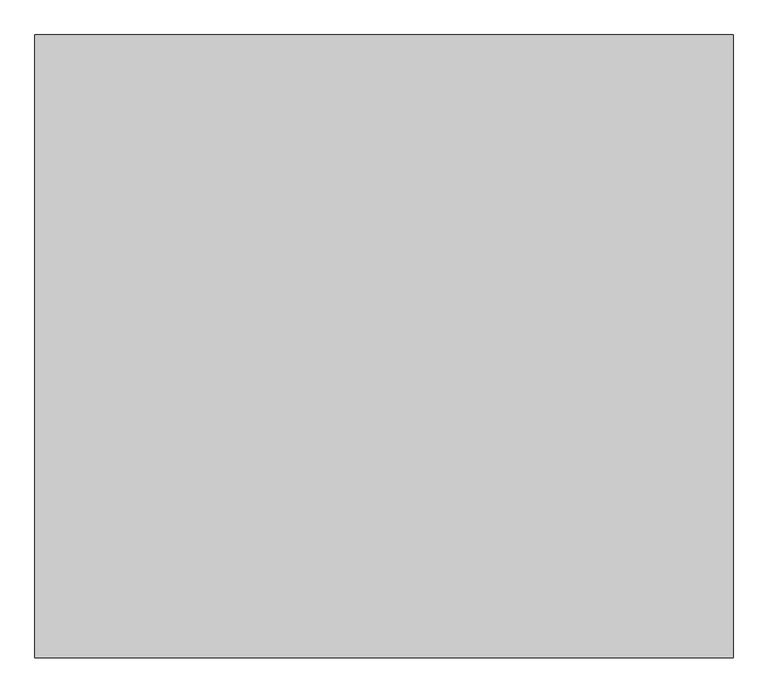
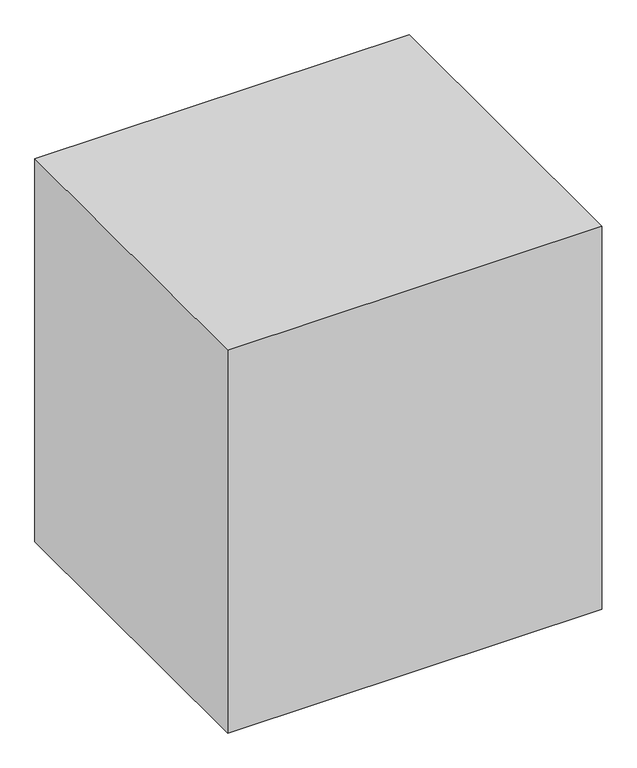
"""IFC4 building model written with IfcOpenShell, lengths in millimetres: furniture geometry, BIMHealth-Consultant_Workstation-LOD2A-v1 : BIMHealth-Consultant_Workstation-LOD2A-v1."""

from ifc_helpers import new_model, si_unit, frame, origin, origin_with_axes, place, context, project, spatial, polyline, outline, extrude, source, transform, mapped, element, save


def furniture_3caebcda(model_context):
    return source(origin(), model_context, "Body", "SweptSolid", [
        extrude(outline(polyline([(785.0, -617.5), (785.0, -650.0), (115.0, -650.0), (115.0, -617.5), (785.0, -617.5)])), frame((0.0, 0.0, 560.0), z_axis=(0.0, 0.0, 1.0), x_axis=(1.0, 0.0, 0.0)), (0.0, 0.0, 1.0), 100.0),
        extrude(outline(polyline([(785.0, -82.5), (115.0, -82.5), (115.0, -50.0), (785.0, -50.0), (785.0, -82.5)])), frame((0.0, 0.0, 560.0), z_axis=(0.0, 0.0, 1.0), x_axis=(1.0, 0.0, 0.0)), (0.0, 0.0, 1.0), 100.0),
        extrude(outline(polyline([(50.0, -585.0), (50.0, -115.0), (82.5, -115.0), (82.5, -585.0), (50.0, -585.0)])), frame((0.0, 0.0, 560.0), z_axis=(0.0, 0.0, 1.0), x_axis=(1.0, 0.0, 0.0)), (0.0, 0.0, 1.0), 100.0),
        extrude(outline(polyline([(850.0, -585.0), (817.5, -585.0), (817.5, -115.0), (850.0, -115.0), (850.0, -585.0)])), frame((0.0, 0.0, 560.0), z_axis=(0.0, 0.0, 1.0), x_axis=(1.0, 0.0, 0.0)), (0.0, 0.0, 1.0), 100.0),
        extrude(outline(polyline([(11.3672628, -33.4729978), (11.3672628, -13.7806901), (18.8816859, -13.7806901), (22.5619743, -14.360017), (24.7350513, -16.141267), (25.521109, -18.6604978), (24.8600513, -20.9609786), (22.8624551, -22.703767), (25.2879359, -24.5403055), (26.1364936, -27.6028055), (25.5571666, -30.2494401), (24.1220705, -32.1340555), (21.9802436, -33.1340555), (18.8239936, -33.4729978), (11.3672628, -33.4729978)]), holes=[polyline([(13.8288013, -21.7806901), (18.3239936, -21.7806901), (20.9489936, -21.5691517), (22.5283205, -20.658094), (23.0595705, -19.0547286), (22.5643782, -17.4489594), (21.146109, -16.4994401), (17.9826474, -16.2422286), (13.8288013, -16.2422286), (13.8288013, -21.7806901)]), polyline([(13.8288013, -31.0114594), (18.8768782, -31.0114594), (20.7038013, -30.9153055), (22.2494743, -30.3792478), (23.6749551, -27.626844), (23.2038013, -25.7133824), (21.677359, -24.5715555), (18.6364936, -24.2422286), (13.8288013, -24.2422286), (13.8288013, -31.0114594)])]), frame((0.0, 0.0, 700.0), z_axis=(0.0, 0.0, 1.0), x_axis=(1.0, 0.0, 0.0)), (0.0, 0.0, 1.0), 2.5),
        extrude(outline(polyline([(29.8288013, -33.4729978), (29.8288013, -13.7806901), (32.2903397, -13.7806901), (32.2903397, -33.4729978), (29.8288013, -33.4729978)])), frame((0.0, 0.0, 700.0), z_axis=(0.0, 0.0, 1.0), x_axis=(1.0, 0.0, 0.0)), (0.0, 0.0, 1.0), 2.5),
        extrude(outline(polyline([(37.2134166, -33.4729978), (37.2134166, -13.7806901), (41.4345705, -13.7806901), (45.473032, -27.6604978), (46.2903397, -30.5595363), (47.1701474, -27.4201132), (51.1316859, -13.7806901), (55.3672628, -13.7806901), (55.3672628, -33.4729978), (52.9057243, -33.4729978), (52.9057243, -16.2422286), (47.958609, -33.4729978), (44.6268782, -33.4729978), (39.6749551, -16.2422286), (39.6749551, -33.4729978), (37.2134166, -33.4729978)])), frame((0.0, 0.0, 700.0), z_axis=(0.0, 0.0, 1.0), x_axis=(1.0, 0.0, 0.0)), (0.0, 0.0, 1.0), 2.5),
        extrude(outline(polyline([(59.6749551, -33.4729978), (59.6749551, -13.7806901), (62.1364936, -13.7806901), (62.1364936, -21.7806901), (72.598032, -21.7806901), (72.598032, -13.7806901), (75.0595705, -13.7806901), (75.0595705, -33.4729978), (72.598032, -33.4729978), (72.598032, -24.2422286), (62.1364936, -24.2422286), (62.1364936, -33.4729978), (59.6749551, -33.4729978)])), frame((0.0, 0.0, 700.0), z_axis=(0.0, 0.0, 1.0), x_axis=(1.0, 0.0, 0.0)), (0.0, 0.0, 1.0), 2.5),
        extrude(outline(polyline([(89.1845705, -29.1653055), (91.598032, -29.4729978), (89.3408205, -32.6508824), (85.1364936, -33.7806901), (80.0259166, -31.8311709), (78.1364936, -26.3624209), (80.0451474, -20.7133824), (84.9970705, -18.703767), (89.8071666, -20.7085747), (91.6749551, -26.3479978), (80.598032, -27.0114594), (82.0138974, -30.2085747), (85.1845705, -31.3191517), (87.598032, -30.8047286), (89.1845705, -29.1653055)]), holes=[polyline([(80.598032, -24.5499209), (89.2134166, -24.5499209), (88.2278397, -22.3191517), (84.9874551, -21.1653055), (81.9562051, -22.0859786), (80.598032, -24.5499209)])]), frame((0.0, 0.0, 700.0), z_axis=(0.0, 0.0, 1.0), x_axis=(1.0, 0.0, 0.0)), (0.0, 0.0, 1.0), 2.5),
        extrude(outline(polyline([(103.3672628, -31.626844), (100.9802436, -33.2951132), (98.3432243, -33.7806901), (94.7687051, -32.6124209), (93.521109, -29.626844), (93.9922628, -27.6797286), (95.2302436, -26.266267), (96.9538013, -25.4585747), (99.083609, -25.0883824), (103.3528397, -24.2422286), (102.6893782, -21.876844), (99.9682243, -21.1653055), (97.4778397, -21.6388632), (96.2903397, -23.3191517), (93.8288013, -23.0114594), (94.8937051, -20.6076132), (97.0379359, -19.1989594), (100.285532, -18.703767), (103.2687051, -19.141267), (104.9538013, -20.2398247), (105.708609, -21.9104978), (105.8288013, -24.064344), (105.8288013, -27.126844), (105.9538013, -31.4032863), (106.4441859, -33.4729978), (103.9826474, -33.4729978), (103.3672628, -31.626844)]), holes=[polyline([(103.3600513, -27.0523247), (99.396109, -27.4585747), (97.2783205, -27.8576132), (98.8672628, -31.3191517), (101.3576474, -30.7302094), (102.9634166, -29.3047286), (103.3600513, -27.0523247)])]), frame((0.0, 0.0, 700.0), z_axis=(0.0, 0.0, 1.0), x_axis=(1.0, 0.0, 0.0)), (0.0, 0.0, 1.0), 2.5),
        extrude(outline(polyline([(109.2134166, -33.4729978), (109.2134166, -13.7806901), (111.6749551, -13.7806901), (111.6749551, -33.4729978), (109.2134166, -33.4729978)])), frame((0.0, 0.0, 700.0), z_axis=(0.0, 0.0, 1.0), x_axis=(1.0, 0.0, 0.0)), (0.0, 0.0, 1.0), 2.5),
        extrude(outline(polyline([(119.3672628, -30.4273247), (120.9057243, -33.5451132), (119.0643782, -33.7806901), (117.0018782, -33.3720363), (115.6749551, -29.5066517), (115.6749551, -21.4729978), (113.8288013, -21.4729978), (113.8288013, -19.0114594), (115.6749551, -19.0114594), (115.6749551, -15.4970363), (118.1364936, -14.0499209), (118.1364936, -19.0114594), (120.598032, -19.0114594), (120.598032, -21.4729978), (118.1364936, -21.4729978), (119.3672628, -30.4273247)])), frame((0.0, 0.0, 700.0), z_axis=(0.0, 0.0, 1.0), x_axis=(1.0, 0.0, 0.0)), (0.0, 0.0, 1.0), 2.5),
        extrude(outline(polyline([(123.0595705, -33.4729978), (123.0595705, -13.7806901), (125.521109, -13.7806901), (125.521109, -21.0210747), (129.8047628, -18.703767), (132.5691859, -19.3359786), (134.2470705, -21.0835747), (134.7518782, -24.3191517), (134.7518782, -33.4729978), (132.2903397, -33.4729978), (132.2903397, -24.5739594), (131.5066859, -21.9778055), (129.285532, -21.1653055), (127.2687051, -21.7133824), (125.9225513, -23.1989594), (125.521109, -25.7903055), (125.521109, -33.4729978), (123.0595705, -33.4729978)])), frame((0.0, 0.0, 700.0), z_axis=(0.0, 0.0, 1.0), x_axis=(1.0, 0.0, 0.0)), (0.0, 0.0, 1.0), 2.5),
        extrude(outline(polyline([(850.0, -585.0), (850.0, -650.0), (785.0, -650.0), (785.0, -585.0), (850.0, -585.0)])), origin_with_axes(), (0.0, 0.0, 1.0), 660.0),
        extrude(outline(polyline([(850.0, -115.0), (785.0, -115.0), (785.0, -50.0), (850.0, -50.0), (850.0, -115.0)])), origin_with_axes(), (0.0, 0.0, 1.0), 660.0),
        extrude(outline(polyline([(50.0, -585.0), (115.0, -585.0), (115.0, -650.0), (50.0, -650.0), (50.0, -585.0)])), origin_with_axes(), (0.0, 0.0, 1.0), 660.0),
        extrude(outline(polyline([(50.0, -115.0), (50.0, -50.0), (115.0, -50.0), (115.0, -115.0), (50.0, -115.0)])), origin_with_axes(), (0.0, 0.0, 1.0), 660.0),
        extrude(outline(polyline([(900.0, 0.0), (900.0, -700.0), (0.0, -700.0), (0.0, 0.0), (900.0, 0.0)])), frame((0.0, 0.0, 660.0), z_axis=(0.0, 0.0, 1.0), x_axis=(1.0, 0.0, 0.0)), (0.0, 0.0, 1.0), 40.0),
        extrude(outline(polyline([(1800.0, 50.0), (1800.0, -1600.0), (-50.0, -1600.0), (-50.0, 50.0), (1800.0, 50.0)])), origin_with_axes(), (0.0, 0.0, 1.0), 2000.0),
    ])


if __name__ == "__main__":
    model = new_model("IFC4")
    model_context = context("Model", 3, world=origin())
    ifc_project = project(units=[si_unit("LENGTHUNIT", "METRE", prefix="MILLI")], contexts=[model_context])
    site = spatial("IfcSite", under=ifc_project)
    building = spatial("IfcBuilding", under=site)
    placement = place(None, origin())
    furniture_shape = furniture_3caebcda(model_context)
    element("IfcFurniture", 1, ObjectType="BIMHealth-Consultant_Workstation-LOD2A-v1 : BIMHealth-Consultant_Workstation-LOD2A-v1", at=placement, inside=building, context=model_context, shape_type="MappedRepresentation", body=[
        mapped(furniture_shape, transform((0.0, 0.0, 0.0), x_axis=(1.0, 0.0, 0.0), y_axis=(0.0, 1.0, 0.0), z_axis=(0.0, 0.0, 1.0))),
    ])
    save(model, "model.ifc")
